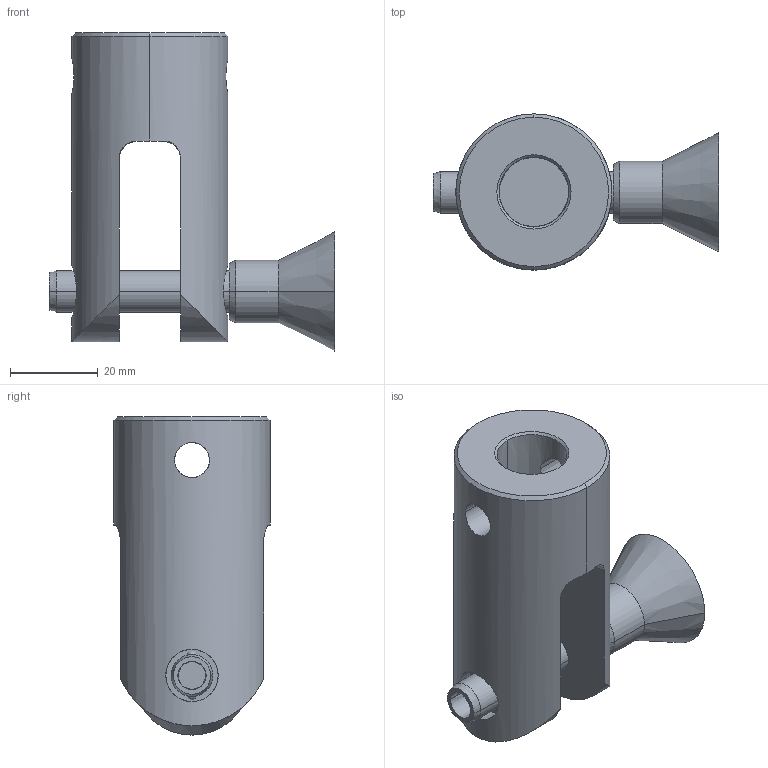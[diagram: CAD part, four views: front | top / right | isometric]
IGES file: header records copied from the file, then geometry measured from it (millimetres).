
Global section: file name: No Iges File Name specified; native system: Autodesk Inventor 2010; preprocessor: AutoDesk Inventor Iges Exporter R2010; author: mlampen; date: 20170420.123300; units: inch
Bounding box: 65.15 x 35.56 x 72.52 mm (x, y, z)
Volume: 46830.1 mm3; surface area: 19054.1 mm2
Topology: 5 solids, 5 shells, 73 faces, 176 edges, 108 vertices
Faces by surface type: revolution 32, plane 15, cylinder 12, cone 10, sphere 4
